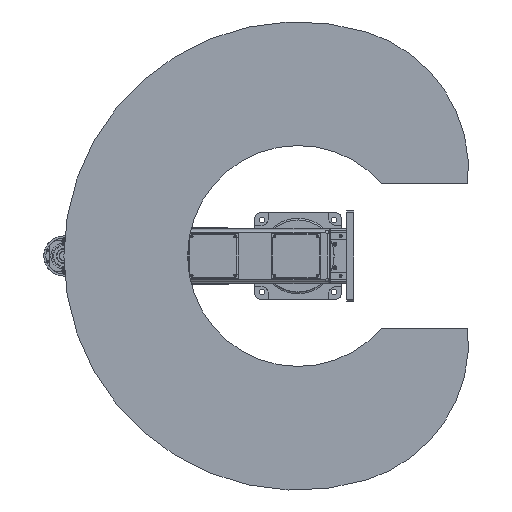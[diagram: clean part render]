
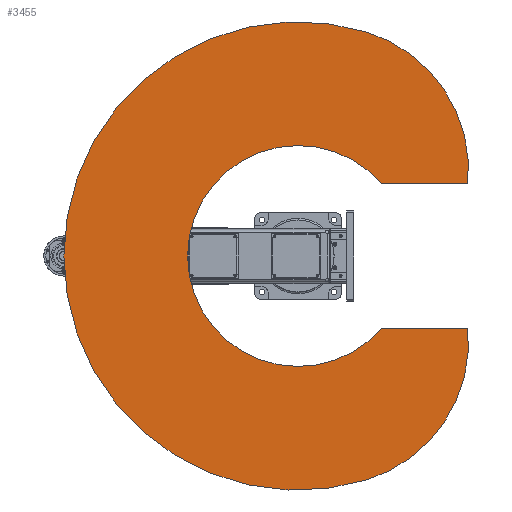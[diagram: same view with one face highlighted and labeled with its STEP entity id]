
A CAD part, front view. The second image highlights one B-rep face of the part: STEP entity #3455.
In plain terms, the highlighted planar face has unit normal (0, -1, 0).
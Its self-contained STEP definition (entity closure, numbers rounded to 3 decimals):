
#3455 = ADVANCED_FACE( '', ( #9196 ), #9197, .F. );
#9196 = FACE_OUTER_BOUND( '', #18038, .T. );
#9197 = PLANE( '', #18039 );
#18038 = EDGE_LOOP( '', ( #29830, #29831, #29832, #29833, #29834, #29835 ) );
#18039 = AXIS2_PLACEMENT_3D( '', #29836, #29837, #29838 );
#29830 = ORIENTED_EDGE( '', *, *, #49852, .F. );
#29831 = ORIENTED_EDGE( '', *, *, #49853, .F. );
#29832 = ORIENTED_EDGE( '', *, *, #49854, .T. );
#29833 = ORIENTED_EDGE( '', *, *, #49855, .F. );
#29834 = ORIENTED_EDGE( '', *, *, #49856, .F. );
#29835 = ORIENTED_EDGE( '', *, *, #49857, .F. );
#29836 = CARTESIAN_POINT( '', ( 239.076, 0., 73.093 ) );
#29837 = DIRECTION( '', ( 0., 1., 0. ) );
#29838 = DIRECTION( '', ( 0., 0., 1. ) );
#49852 = EDGE_CURVE( '', #59621, #59622, #59623, .T. );
#49853 = EDGE_CURVE( '', #59624, #59621, #59625, .T. );
#49854 = EDGE_CURVE( '', #59624, #59626, #59627, .T. );
#49855 = EDGE_CURVE( '', #59628, #59626, #59629, .T. );
#49856 = EDGE_CURVE( '', #59630, #59628, #59631, .T. );
#49857 = EDGE_CURVE( '', #59622, #59630, #59632, .T. );
#59621 = VERTEX_POINT( '', #74142 );
#59622 = VERTEX_POINT( '', #74143 );
#59623 = CIRCLE( '', #74144, 400. );
#59624 = VERTEX_POINT( '', #74145 );
#59625 = LINE( '', #74146, #74147 );
#59626 = VERTEX_POINT( '', #74148 );
#59627 = CIRCLE( '', #74149, 306.5 );
#59628 = VERTEX_POINT( '', #74150 );
#59629 = LINE( '', #74151, #74152 );
#59630 = VERTEX_POINT( '', #74153 );
#59631 = CIRCLE( '', #74154, 400. );
#59632 = CIRCLE( '', #74155, 650. );
#74142 = CARTESIAN_POINT( '', ( 200., 0., 471.18 ) );
#74143 = CARTESIAN_POINT( '', ( 621.598, 0., 190.042 ) );
#74144 = AXIS2_PLACEMENT_3D( '', #90906, #90907, #90908 );
#74145 = CARTESIAN_POINT( '', ( 200., 0., 232.255 ) );
#74146 = CARTESIAN_POINT( '', ( 200., 0., 232.255 ) );
#74147 = VECTOR( '', #90909, 1000. );
#74148 = CARTESIAN_POINT( '', ( -200., 0., 232.255 ) );
#74149 = AXIS2_PLACEMENT_3D( '', #90910, #90911, #90912 );
#74150 = CARTESIAN_POINT( '', ( -200., 0., 471.18 ) );
#74151 = CARTESIAN_POINT( '', ( -200., 0., 471.18 ) );
#74152 = VECTOR( '', #90913, 1000. );
#74153 = CARTESIAN_POINT( '', ( -621.598, 0., 190.042 ) );
#74154 = AXIS2_PLACEMENT_3D( '', #90914, #90915, #90916 );
#74155 = AXIS2_PLACEMENT_3D( '', #90917, #90918, #90919 );
#90906 = CARTESIAN_POINT( '', ( 239.076, 0., 73.093 ) );
#90907 = DIRECTION( '', ( 0., 1., 0. ) );
#90908 = DIRECTION( '', ( 1., 0., 0. ) );
#90909 = DIRECTION( '', ( 0., 0., 1. ) );
#90910 = CARTESIAN_POINT( '', ( 0., 0., 0. ) );
#90911 = DIRECTION( '', ( 0., 1., 0. ) );
#90912 = DIRECTION( '', ( 1., 0., 0. ) );
#90913 = DIRECTION( '', ( 0., 0., -1. ) );
#90914 = CARTESIAN_POINT( '', ( -239.076, 0., 73.093 ) );
#90915 = DIRECTION( '', ( 0., 1., 0. ) );
#90916 = DIRECTION( '', ( 1., 0., 0. ) );
#90917 = CARTESIAN_POINT( '', ( 0., 0., 0. ) );
#90918 = DIRECTION( '', ( 0., 1., 0. ) );
#90919 = DIRECTION( '', ( 1., 0., 0. ) );
